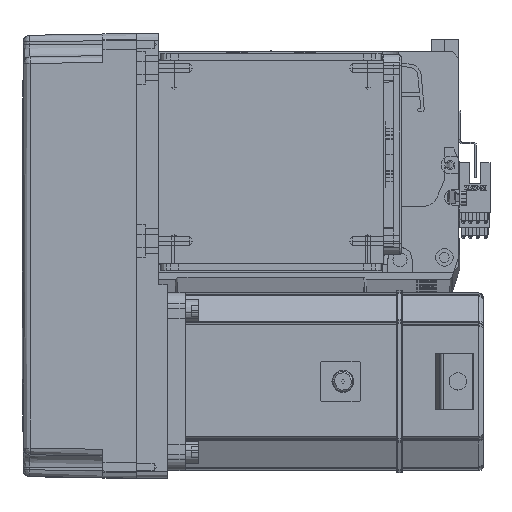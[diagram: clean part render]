
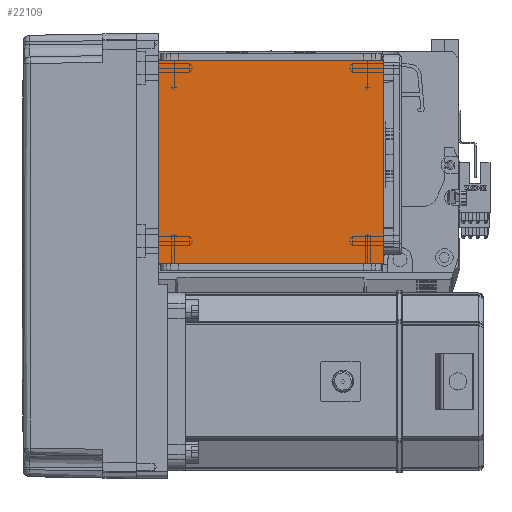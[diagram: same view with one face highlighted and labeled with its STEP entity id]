
A CAD part, top view. The second image highlights one B-rep face of the part: STEP entity #22109.
In plain terms, the highlighted planar face has unit normal (0, 0, 1).
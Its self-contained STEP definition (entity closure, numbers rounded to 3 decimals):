
#680 = AXIS2_PLACEMENT_3D ( 'NONE', #21849, #49463, #39011 ) ;
#802 = FACE_OUTER_BOUND ( 'NONE', #63867, .T. ) ;
#3965 = CARTESIAN_POINT ( 'NONE',  ( -70.004, 111.5, 115. ) ) ;
#4476 = VECTOR ( 'NONE', #15328, 1000. ) ;
#9044 = ORIENTED_EDGE ( 'NONE', *, *, #55231, .F. ) ;
#13986 = DIRECTION ( 'NONE',  ( 1., 0., 0. ) ) ;
#15328 = DIRECTION ( 'NONE',  ( 0., 1., 0. ) ) ;
#21849 = CARTESIAN_POINT ( 'NONE',  ( 0., 0., 115. ) ) ;
#22109 = ADVANCED_FACE ( 'NONE', ( #802 ), #22553, .T. ) ;
#22553 = PLANE ( 'NONE',  #680 ) ;
#23830 = CARTESIAN_POINT ( 'NONE',  ( -70.004, 20., 115. ) ) ;
#35854 = ORIENTED_EDGE ( 'NONE', *, *, #62787, .F. ) ;
#36072 = LINE ( 'NONE', #3965, #58208 ) ;
#36513 = CARTESIAN_POINT ( 'NONE',  ( 50.5, 122., 115. ) ) ;
#36653 = CARTESIAN_POINT ( 'NONE',  ( 50.5, 20., 115. ) ) ;
#38033 = DIRECTION ( 'NONE',  ( 0., -1., 0. ) ) ;
#39011 = DIRECTION ( 'NONE',  ( 1., 0., 0. ) ) ;
#41828 = CARTESIAN_POINT ( 'NONE',  ( -50.5, 20., 115. ) ) ;
#42845 = ORIENTED_EDGE ( 'NONE', *, *, #69234, .T. ) ;
#45535 = DIRECTION ( 'NONE',  ( -1., 0., 0. ) ) ;
#45606 = VERTEX_POINT ( 'NONE', #69352 ) ;
#49463 = DIRECTION ( 'NONE',  ( 0., 0., 1. ) ) ;
#50772 = ORIENTED_EDGE ( 'NONE', *, *, #53859, .T. ) ;
#51592 = VERTEX_POINT ( 'NONE', #41828 ) ;
#51900 = VECTOR ( 'NONE', #38033, 1000. ) ;
#53859 = EDGE_CURVE ( 'NONE', #62996, #64503, #63211, .T. ) ;
#55231 = EDGE_CURVE ( 'NONE', #62996, #51592, #57926, .T. ) ;
#56202 = VECTOR ( 'NONE', #45535, 1000. ) ;
#57926 = LINE ( 'NONE', #23830, #56202 ) ;
#58208 = VECTOR ( 'NONE', #13986, 1000. ) ;
#58312 = CARTESIAN_POINT ( 'NONE',  ( 50.5, 111.5, 115. ) ) ;
#62787 = EDGE_CURVE ( 'NONE', #45606, #64503, #36072, .T. ) ;
#62996 = VERTEX_POINT ( 'NONE', #36653 ) ;
#63211 = LINE ( 'NONE', #36513, #4476 ) ;
#63867 = EDGE_LOOP ( 'NONE', ( #35854, #42845, #9044, #50772 ) ) ;
#64503 = VERTEX_POINT ( 'NONE', #58312 ) ;
#65360 = CARTESIAN_POINT ( 'NONE',  ( -50.5, 122., 115. ) ) ;
#69234 = EDGE_CURVE ( 'NONE', #45606, #51592, #69751, .T. ) ;
#69352 = CARTESIAN_POINT ( 'NONE',  ( -50.5, 111.5, 115. ) ) ;
#69751 = LINE ( 'NONE', #65360, #51900 ) ;
